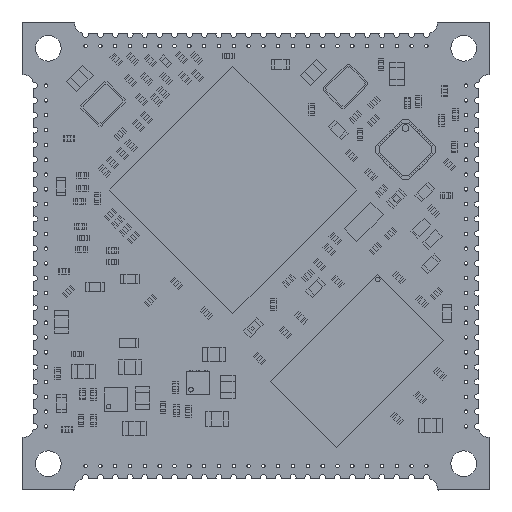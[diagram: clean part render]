
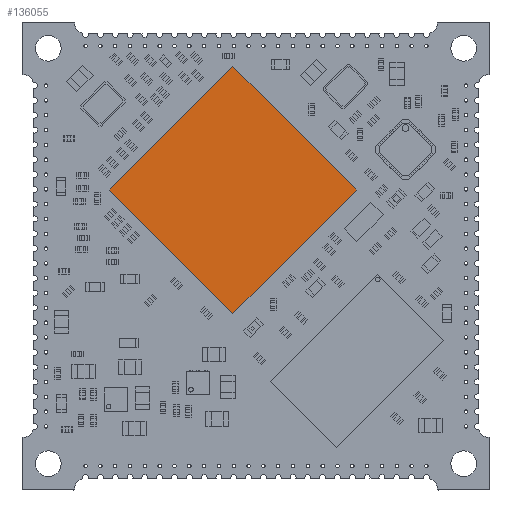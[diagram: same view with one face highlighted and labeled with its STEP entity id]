
A CAD part, top view. The second image highlights one B-rep face of the part: STEP entity #136055.
In plain terms, the highlighted planar face has unit normal (0, 0, 1).
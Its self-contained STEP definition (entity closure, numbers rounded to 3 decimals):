
#135741 = VERTEX_POINT('',#135742);
#135742 = CARTESIAN_POINT('',(0.,10.607,0.91));
#135749 = PLANE('',#135750);
#135750 = AXIS2_PLACEMENT_3D('',#135751,#135752,#135753);
#135751 = CARTESIAN_POINT('',(0.,10.607,0.));
#135752 = DIRECTION('',(0.707,-0.707,0.));
#135753 = DIRECTION('',(-0.707,-0.707,0.));
#135761 = PLANE('',#135762);
#135762 = AXIS2_PLACEMENT_3D('',#135763,#135764,#135765);
#135763 = CARTESIAN_POINT('',(10.607,0.,0.));
#135764 = DIRECTION('',(-0.707,-0.707,0.));
#135765 = DIRECTION('',(-0.707,0.707,0.));
#135773 = EDGE_CURVE('',#135741,#135774,#135776,.T.);
#135774 = VERTEX_POINT('',#135775);
#135775 = CARTESIAN_POINT('',(-10.607,0.,
    0.91));
#135776 = SURFACE_CURVE('',#135777,(#135781,#135788),.PCURVE_S1.);
#135777 = LINE('',#135778,#135779);
#135778 = CARTESIAN_POINT('',(0.,10.607,0.91));
#135779 = VECTOR('',#135780,1.);
#135780 = DIRECTION('',(-0.707,-0.707,0.));
#135781 = PCURVE('',#135749,#135782);
#135782 = DEFINITIONAL_REPRESENTATION('',(#135783),#135787);
#135783 = LINE('',#135784,#135785);
#135784 = CARTESIAN_POINT('',(0.,-0.91));
#135785 = VECTOR('',#135786,1.);
#135786 = DIRECTION('',(1.,0.));
#135787 = ( GEOMETRIC_REPRESENTATION_CONTEXT(2) 
PARAMETRIC_REPRESENTATION_CONTEXT() REPRESENTATION_CONTEXT('2D SPACE',''
  ) );
#135788 = PCURVE('',#135789,#135794);
#135789 = PLANE('',#135790);
#135790 = AXIS2_PLACEMENT_3D('',#135791,#135792,#135793);
#135791 = CARTESIAN_POINT('',(0.,10.607,0.91));
#135792 = DIRECTION('',(0.,0.,-1.));
#135793 = DIRECTION('',(-1.,0.,0.));
#135794 = DEFINITIONAL_REPRESENTATION('',(#135795),#135799);
#135795 = LINE('',#135796,#135797);
#135796 = CARTESIAN_POINT('',(0.,0.));
#135797 = VECTOR('',#135798,1.);
#135798 = DIRECTION('',(0.707,-0.707));
#135799 = ( GEOMETRIC_REPRESENTATION_CONTEXT(2) 
PARAMETRIC_REPRESENTATION_CONTEXT() REPRESENTATION_CONTEXT('2D SPACE',''
  ) );
#135817 = PLANE('',#135818);
#135818 = AXIS2_PLACEMENT_3D('',#135819,#135820,#135821);
#135819 = CARTESIAN_POINT('',(-10.607,0.,0.)
  );
#135820 = DIRECTION('',(0.707,0.707,0.));
#135821 = DIRECTION('',(0.707,-0.707,0.));
#135859 = EDGE_CURVE('',#135774,#135860,#135862,.T.);
#135860 = VERTEX_POINT('',#135861);
#135861 = CARTESIAN_POINT('',(0.,-10.607,
    0.91));
#135862 = SURFACE_CURVE('',#135863,(#135867,#135874),.PCURVE_S1.);
#135863 = LINE('',#135864,#135865);
#135864 = CARTESIAN_POINT('',(-10.607,0.,
    0.91));
#135865 = VECTOR('',#135866,1.);
#135866 = DIRECTION('',(0.707,-0.707,0.));
#135867 = PCURVE('',#135817,#135868);
#135868 = DEFINITIONAL_REPRESENTATION('',(#135869),#135873);
#135869 = LINE('',#135870,#135871);
#135870 = CARTESIAN_POINT('',(0.,-0.91));
#135871 = VECTOR('',#135872,1.);
#135872 = DIRECTION('',(1.,0.));
#135873 = ( GEOMETRIC_REPRESENTATION_CONTEXT(2) 
PARAMETRIC_REPRESENTATION_CONTEXT() REPRESENTATION_CONTEXT('2D SPACE',''
  ) );
#135874 = PCURVE('',#135789,#135875);
#135875 = DEFINITIONAL_REPRESENTATION('',(#135876),#135880);
#135876 = LINE('',#135877,#135878);
#135877 = CARTESIAN_POINT('',(10.607,-10.607));
#135878 = VECTOR('',#135879,1.);
#135879 = DIRECTION('',(-0.707,-0.707));
#135880 = ( GEOMETRIC_REPRESENTATION_CONTEXT(2) 
PARAMETRIC_REPRESENTATION_CONTEXT() REPRESENTATION_CONTEXT('2D SPACE',''
  ) );
#135898 = PLANE('',#135899);
#135899 = AXIS2_PLACEMENT_3D('',#135900,#135901,#135902);
#135900 = CARTESIAN_POINT('',(0.,-10.607,0.)
  );
#135901 = DIRECTION('',(-0.707,0.707,0.));
#135902 = DIRECTION('',(0.707,0.707,0.));
#135935 = EDGE_CURVE('',#135860,#135936,#135938,.T.);
#135936 = VERTEX_POINT('',#135937);
#135937 = CARTESIAN_POINT('',(10.607,0.,0.91));
#135938 = SURFACE_CURVE('',#135939,(#135943,#135950),.PCURVE_S1.);
#135939 = LINE('',#135940,#135941);
#135940 = CARTESIAN_POINT('',(0.,-10.607,
    0.91));
#135941 = VECTOR('',#135942,1.);
#135942 = DIRECTION('',(0.707,0.707,0.));
#135943 = PCURVE('',#135898,#135944);
#135944 = DEFINITIONAL_REPRESENTATION('',(#135945),#135949);
#135945 = LINE('',#135946,#135947);
#135946 = CARTESIAN_POINT('',(0.,-0.91));
#135947 = VECTOR('',#135948,1.);
#135948 = DIRECTION('',(1.,0.));
#135949 = ( GEOMETRIC_REPRESENTATION_CONTEXT(2) 
PARAMETRIC_REPRESENTATION_CONTEXT() REPRESENTATION_CONTEXT('2D SPACE',''
  ) );
#135950 = PCURVE('',#135789,#135951);
#135951 = DEFINITIONAL_REPRESENTATION('',(#135952),#135956);
#135952 = LINE('',#135953,#135954);
#135953 = CARTESIAN_POINT('',(0.,-21.213));
#135954 = VECTOR('',#135955,1.);
#135955 = DIRECTION('',(-0.707,0.707));
#135956 = ( GEOMETRIC_REPRESENTATION_CONTEXT(2) 
PARAMETRIC_REPRESENTATION_CONTEXT() REPRESENTATION_CONTEXT('2D SPACE',''
  ) );
#136006 = EDGE_CURVE('',#135936,#135741,#136007,.T.);
#136007 = SURFACE_CURVE('',#136008,(#136012,#136019),.PCURVE_S1.);
#136008 = LINE('',#136009,#136010);
#136009 = CARTESIAN_POINT('',(10.607,0.,0.91));
#136010 = VECTOR('',#136011,1.);
#136011 = DIRECTION('',(-0.707,0.707,0.));
#136012 = PCURVE('',#135761,#136013);
#136013 = DEFINITIONAL_REPRESENTATION('',(#136014),#136018);
#136014 = LINE('',#136015,#136016);
#136015 = CARTESIAN_POINT('',(0.,-0.91));
#136016 = VECTOR('',#136017,1.);
#136017 = DIRECTION('',(1.,0.));
#136018 = ( GEOMETRIC_REPRESENTATION_CONTEXT(2) 
PARAMETRIC_REPRESENTATION_CONTEXT() REPRESENTATION_CONTEXT('2D SPACE',''
  ) );
#136019 = PCURVE('',#135789,#136020);
#136020 = DEFINITIONAL_REPRESENTATION('',(#136021),#136025);
#136021 = LINE('',#136022,#136023);
#136022 = CARTESIAN_POINT('',(-10.607,-10.607));
#136023 = VECTOR('',#136024,1.);
#136024 = DIRECTION('',(0.707,0.707));
#136025 = ( GEOMETRIC_REPRESENTATION_CONTEXT(2) 
PARAMETRIC_REPRESENTATION_CONTEXT() REPRESENTATION_CONTEXT('2D SPACE',''
  ) );
#136055 = ADVANCED_FACE('',(#136056),#135789,.F.);
#136056 = FACE_BOUND('',#136057,.T.);
#136057 = EDGE_LOOP('',(#136058,#136059,#136060,#136061));
#136058 = ORIENTED_EDGE('',*,*,#135773,.T.);
#136059 = ORIENTED_EDGE('',*,*,#135859,.T.);
#136060 = ORIENTED_EDGE('',*,*,#135935,.T.);
#136061 = ORIENTED_EDGE('',*,*,#136006,.T.);
